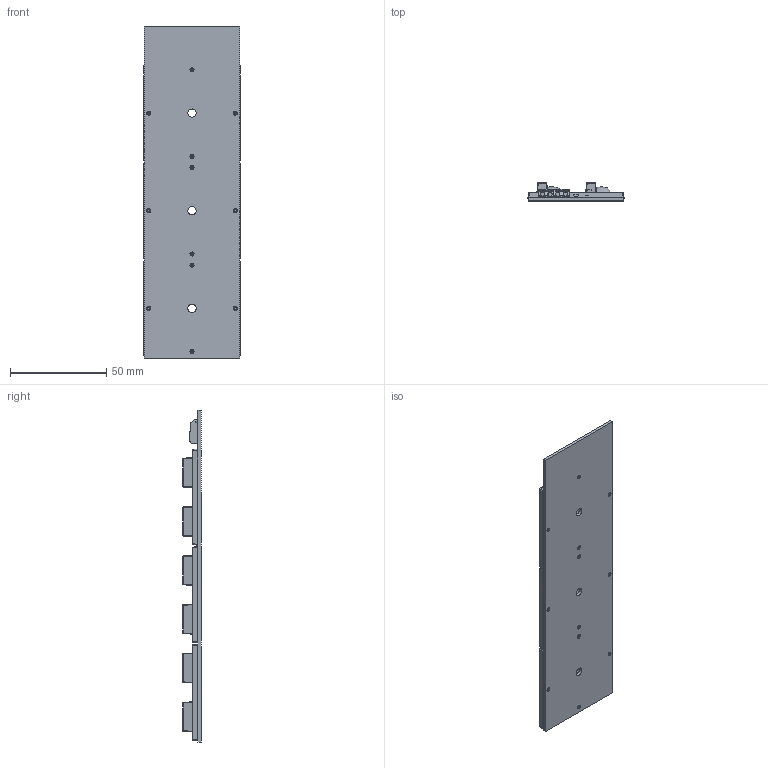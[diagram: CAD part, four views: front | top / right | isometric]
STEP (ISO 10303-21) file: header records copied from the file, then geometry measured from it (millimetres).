
FILE_DESCRIPTION((''),'2;1');
FILE_NAME('SKLOP_WU-M-614-12_M3S_ASM','2019-07-02T14:40:15',('zsavic'),(''),'CREO PARAMETRIC BY PTC INC, 2016510','CREO PARAMETRIC BY PTC INC, 2016510','');
FILE_SCHEMA(('AUTOMOTIVE_DESIGN { 1 0 10303 214 1 1 1 1 }'));
Products named in the file (14): WU-M-614-12_BASA; VSO-LOGO-5MM; VSO-LOGO-5MM001; BUILT-IN_LED_MODULE-5MM004; BUILT-IN_LED_MODULE-5MM003; BUILT-IN_LED_MODULE-5MM002; BUILT-IN_LED_MODULE-5MM001; C0603K_1; SUBSMA; R0603_1; 2060-452_1; DIODA; 568555_-_M3S; SKLOP_WU-M-614-12_M3S_ASM
Assembly tree (32 placements, depth 2):
  SKLOP_WU-M-614-12_M3S_ASM
    WU-M-614-12_BASA
    VSO-LOGO-5MM
    VSO-LOGO-5MM001
    BUILT-IN_LED_MODULE-5MM004
    BUILT-IN_LED_MODULE-5MM003
    BUILT-IN_LED_MODULE-5MM002
    BUILT-IN_LED_MODULE-5MM001  x2
    C0603K_1  x4
    SUBSMA
    R0603_1  x2
    2060-452_1  x2
    DIODA  x12
    568555_-_M3S  x3
Bounding box: 50 x 9.43 x 172.7 mm (x, y, z)
Volume: 35018.1 mm3; surface area: 41020.8 mm2
Topology: 32 solids, 32 shells, 3461 faces, 9344 edges, 6089 vertices
Faces by surface type: plane 2155, cylinder 589, extrusion 310, bspline 195, torus 90, sphere 80, cone 42
Entity records: 74743 total; most frequent: CARTESIAN_POINT 22369, ORIENTED_EDGE 7996, DIRECTION 7172, PRESENTATION_STYLE_ASSIGNMENT 4059, EDGE_CURVE 3998, STYLED_ITEM 3879, CURVE_STYLE 3766, VECTOR 3070
